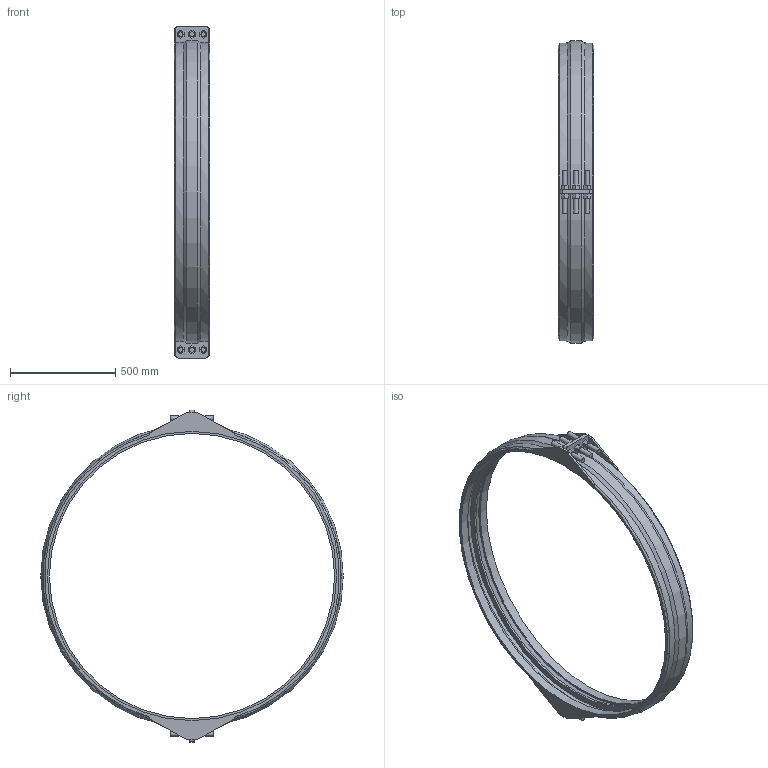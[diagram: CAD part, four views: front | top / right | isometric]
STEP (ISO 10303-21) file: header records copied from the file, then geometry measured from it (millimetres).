
FILE_DESCRIPTION(/* description */ ('VIC SS RESTRAINED COUPLING STYLE 234S (FLEX) (BRS)','CAx-IF Rec.Pracs.---Representation and Presentation of Product Manufacturing Information (PMI)---4.0---2014-10-13'),/* implementation_level */ '2;1');
FILE_NAME(/* name */ 'C:\Users\kkamble\AppData\Roaming\Autodesk\ApplicationPlugins\Back Up\Victaulic_VBSP_Coupling Flexible Restrained_Style 234S (BRS)\Victaulic_VBSP_Coupling Flexible Restrained_Style 234S (BRS)_150psi_54 (1350).stp',/* time_stamp */ '2020-09-22T18:42:32+05:00',/* author */ ('Vjadhav'),/* organization */ ('Victaulic'),/* preprocessor_version */ 'ST-DEVELOPER v17.2',/* originating_system */ 'Autodesk Inventor 2019',/* authorisation */ '');
FILE_SCHEMA (('AP242_MANAGED_MODEL_BASED_3D_ENGINEERING_MIM_LF { 1 0 10303 442 1 1 4 }'));
Length unit declared in the file: inch
Products named in the file (1): Style_234S_Type_2_150psi-54.0
Bounding box: 168.4 x 1434.33 x 1574.8 mm (x, y, z)
Volume: 15301304.3 mm3; surface area: 2247286.3 mm2
Topology: 1 solids, 1 shells, 191 faces, 477 edges, 316 vertices
Faces by surface type: plane 136, cylinder 43, torus 6, cone 6
Full cylindrical faces by diameter (mm): 22.225 x12, 1352.55 x1, 1371.6 x2, 1408.933 x2
Entity records: 6186 total; most frequent: CARTESIAN_POINT 1218, DIRECTION 973, ORIENTED_EDGE 954, EDGE_CURVE 477, LINE 343, VECTOR 343, VERTEX_POINT 316, AXIS2_PLACEMENT_3D 315
